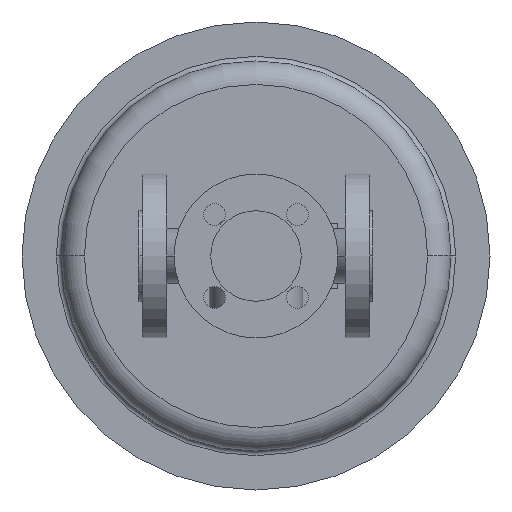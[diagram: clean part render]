
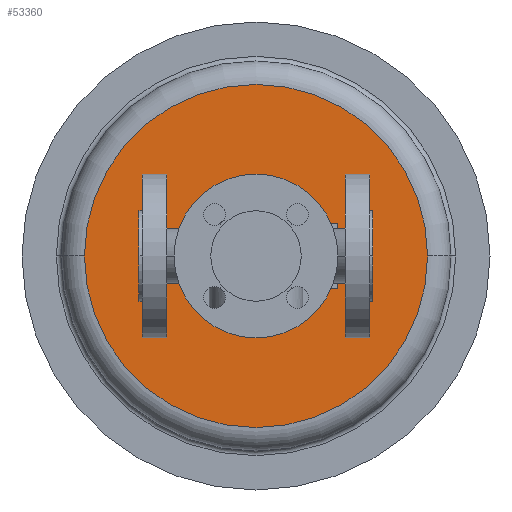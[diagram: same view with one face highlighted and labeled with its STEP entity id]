
A CAD part, front view. The second image highlights one B-rep face of the part: STEP entity #53360.
In plain terms, the highlighted planar face has unit normal (0, -1, 0).
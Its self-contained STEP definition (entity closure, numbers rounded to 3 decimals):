
#39980=CARTESIAN_POINT('',(-35.,356.,0.));
#39990=VERTEX_POINT('',#39980);
#40090=CARTESIAN_POINT('',(185.,356.,0.));
#40100=VERTEX_POINT('',#40090);
#40130=CARTESIAN_POINT('',(75.,356.,0.));
#40140=DIRECTION('',(0.,1.,0.));
#40150=DIRECTION('',(1.,0.,0.));
#40160=AXIS2_PLACEMENT_3D('',#40130,#40140,#40150);
#40170=CIRCLE('',#40160,110.);
#40180=EDGE_CURVE('',#39990,#40100,#40170,.T.);
#40760=CARTESIAN_POINT('',(110.,356.,0.));
#40770=VERTEX_POINT('',#40760);
#40800=CARTESIAN_POINT('',(125.,356.,0.));
#40810=DIRECTION('',(0.,1.,0.));
#40820=DIRECTION('',(1.,0.,0.));
#40830=AXIS2_PLACEMENT_3D('',#40800,#40810,#40820);
#40840=CIRCLE('',#40830,15.);
#40850=CARTESIAN_POINT('',(140.,356.,0.));
#40860=VERTEX_POINT('',#40850);
#40870=EDGE_CURVE('',#40770,#40860,#40840,.T.);
#41180=CARTESIAN_POINT('',(10.,356.,0.));
#41190=VERTEX_POINT('',#41180);
#41350=CARTESIAN_POINT('',(40.,356.,0.));
#41360=VERTEX_POINT('',#41350);
#41390=CARTESIAN_POINT('',(25.,356.,0.));
#41400=DIRECTION('',(0.,1.,0.));
#41410=DIRECTION('',(1.,0.,0.));
#41420=AXIS2_PLACEMENT_3D('',#41390,#41400,#41410);
#41430=CIRCLE('',#41420,15.);
#41440=EDGE_CURVE('',#41360,#41190,#41430,.T.);
#41580=CARTESIAN_POINT('',(56.55,356.,0.));
#41590=VERTEX_POINT('',#41580);
#41810=CARTESIAN_POINT('',(93.45,356.,0.));
#41820=VERTEX_POINT('',#41810);
#41850=CARTESIAN_POINT('',(75.,356.,0.));
#41860=DIRECTION('',(0.,1.,0.));
#41870=DIRECTION('',(1.,0.,0.));
#41880=AXIS2_PLACEMENT_3D('',#41850,#41860,#41870);
#41890=CIRCLE('',#41880,18.45);
#41900=EDGE_CURVE('',#41820,#41590,#41890,.T.);
#53110=CARTESIAN_POINT('',(130.,356.,0.));
#53120=DIRECTION('',(0.,-1.,0.));
#53130=DIRECTION('',(-1.,0.,0.));
#53140=AXIS2_PLACEMENT_3D('',#53110,#53120,#53130);
#53150=PLANE('',#53140);
#53160=EDGE_CURVE('',#41590,#41820,#41890,.T.);
#53170=ORIENTED_EDGE('',*,*,#53160,.T.);
#53180=ORIENTED_EDGE('',*,*,#41900,.T.);
#53190=EDGE_LOOP('',(#53180,#53170));
#53200=FACE_BOUND('',#53190,.T.);
#53210=EDGE_CURVE('',#41190,#41360,#41430,.T.);
#53220=ORIENTED_EDGE('',*,*,#53210,.T.);
#53230=ORIENTED_EDGE('',*,*,#41440,.T.);
#53240=EDGE_LOOP('',(#53230,#53220));
#53250=FACE_BOUND('',#53240,.T.);
#53260=ORIENTED_EDGE('',*,*,#40870,.T.);
#53270=EDGE_CURVE('',#40860,#40770,#40840,.T.);
#53280=ORIENTED_EDGE('',*,*,#53270,.T.);
#53290=EDGE_LOOP('',(#53280,#53260));
#53300=FACE_BOUND('',#53290,.T.);
#53310=EDGE_CURVE('',#40100,#39990,#40170,.T.);
#53320=ORIENTED_EDGE('',*,*,#53310,.F.);
#53330=ORIENTED_EDGE('',*,*,#40180,.F.);
#53340=EDGE_LOOP('',(#53330,#53320));
#53350=FACE_OUTER_BOUND('',#53340,.T.);
#53360=ADVANCED_FACE('',(#53200,#53250,#53300,#53350),#53150,.T.);
